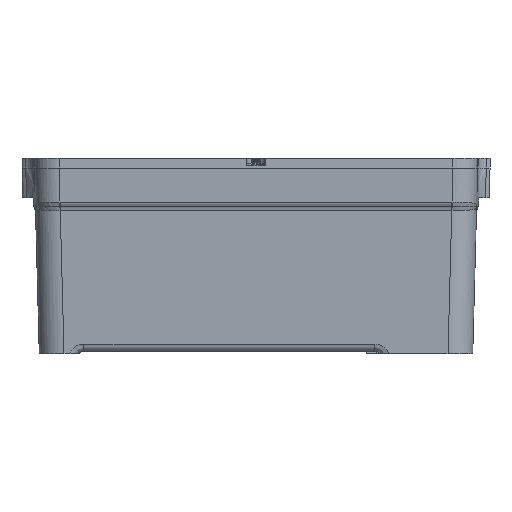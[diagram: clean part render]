
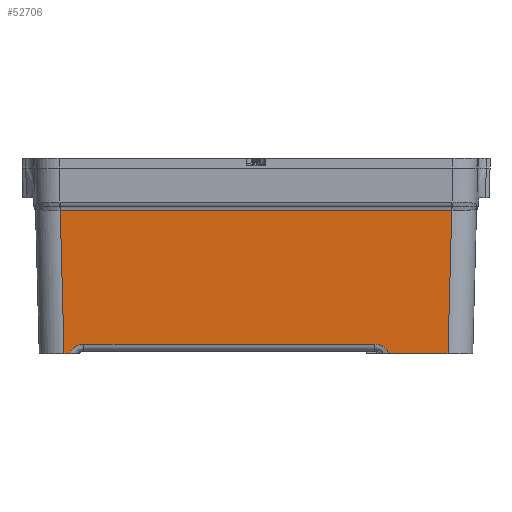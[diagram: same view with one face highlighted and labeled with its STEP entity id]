
A CAD part, left-side view. The second image highlights one B-rep face of the part: STEP entity #52706.
In plain terms, the highlighted planar face has unit normal (-1, 0, -0.026).
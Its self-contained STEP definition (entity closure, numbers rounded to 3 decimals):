
#72=ELLIPSE('',#56762,6.002,6.);
#137=ELLIPSE('',#56952,6.002,6.);
#6606=LINE('',#95468,#11160);
#6607=LINE('',#95673,#11161);
#6626=LINE('',#95842,#11180);
#6699=LINE('',#97849,#11253);
#6700=LINE('',#97851,#11254);
#6701=LINE('',#97852,#11255);
#11160=VECTOR('',#68966,10.);
#11161=VECTOR('',#68983,10.);
#11180=VECTOR('',#69034,10.);
#11253=VECTOR('',#69491,10.);
#11254=VECTOR('',#69492,10.);
#11255=VECTOR('',#69493,10.);
#16721=FACE_OUTER_BOUND('',#19604,.T.);
#19604=EDGE_LOOP('',(#46952,#46953,#46954,#46955,#46956,#46957,#46958,#46959));
#26136=VERTEX_POINT('',#95440);
#26140=VERTEX_POINT('',#95463);
#26143=VERTEX_POINT('',#95559);
#26169=VERTEX_POINT('',#95839);
#26170=VERTEX_POINT('',#95841);
#26172=VERTEX_POINT('',#95871);
#26309=VERTEX_POINT('',#97848);
#26310=VERTEX_POINT('',#97850);
#33103=EDGE_CURVE('',#26140,#26136,#6606,.T.);
#33117=EDGE_CURVE('',#26143,#26140,#6607,.T.);
#33149=EDGE_CURVE('',#26169,#26170,#6626,.T.);
#33154=EDGE_CURVE('',#26170,#26172,#72,.T.);
#33397=EDGE_CURVE('',#26309,#26136,#6699,.T.);
#33398=EDGE_CURVE('',#26310,#26143,#6700,.T.);
#33399=EDGE_CURVE('',#26310,#26172,#6701,.T.);
#33400=EDGE_CURVE('',#26309,#26169,#137,.T.);
#46952=ORIENTED_EDGE('',*,*,#33397,.T.);
#46953=ORIENTED_EDGE('',*,*,#33103,.F.);
#46954=ORIENTED_EDGE('',*,*,#33117,.F.);
#46955=ORIENTED_EDGE('',*,*,#33398,.F.);
#46956=ORIENTED_EDGE('',*,*,#33399,.T.);
#46957=ORIENTED_EDGE('',*,*,#33154,.F.);
#46958=ORIENTED_EDGE('',*,*,#33149,.F.);
#46959=ORIENTED_EDGE('',*,*,#33400,.F.);
#50204=PLANE('',#56951);
#52706=ADVANCED_FACE('',(#16721),#50204,.T.);
#56762=AXIS2_PLACEMENT_3D('',#95886,#69040,#69041);
#56951=AXIS2_PLACEMENT_3D('',#97847,#69489,#69490);
#56952=AXIS2_PLACEMENT_3D('',#97853,#69494,#69495);
#68966=DIRECTION('',(0.026,0.026,-0.999));
#68983=DIRECTION('',(0.,-1.,0.));
#69034=DIRECTION('',(0.,1.,0.));
#69040=DIRECTION('center_axis',(-1.,0.,
-0.026));
#69041=DIRECTION('ref_axis',(-0.026,0.,1.));
#69489=DIRECTION('center_axis',(-1.,0.,
-0.026));
#69490=DIRECTION('ref_axis',(0.,-1.,0.));
#69491=DIRECTION('',(0.,-1.,0.));
#69492=DIRECTION('',(-0.026,0.026,0.999));
#69493=DIRECTION('',(0.,-1.,0.));
#69494=DIRECTION('center_axis',(-1.,0.,
-0.026));
#69495=DIRECTION('ref_axis',(-0.026,0.,1.));
#95440=CARTESIAN_POINT('',(1.545,5.461,-1.));
#95463=CARTESIAN_POINT('',(0.032,3.947,56.787));
#95468=CARTESIAN_POINT('',(0.686,4.602,31.8));
#95559=CARTESIAN_POINT('',(0.032,162.053,56.787));
#95673=CARTESIAN_POINT('',(0.032,124.5,56.787));
#95839=CARTESIAN_POINT('',(1.442,35.,2.921));
#95841=CARTESIAN_POINT('',(1.442,152.5,2.921));
#95842=CARTESIAN_POINT('',(1.442,124.5,2.921));
#95871=CARTESIAN_POINT('',(1.545,158.128,-1.));
#95886=CARTESIAN_POINT('Origin',(1.599,152.5,-3.079));
#97847=CARTESIAN_POINT('Origin',(1.518,166.,0.02));
#97848=CARTESIAN_POINT('',(1.545,29.372,-1.));
#97849=CARTESIAN_POINT('',(1.545,83.25,-1.));
#97850=CARTESIAN_POINT('',(1.545,160.539,-1.));
#97851=CARTESIAN_POINT('',(0.544,161.541,37.232));
#97852=CARTESIAN_POINT('',(1.545,165.75,-1.));
#97853=CARTESIAN_POINT('Origin',(1.599,35.,-3.079));
